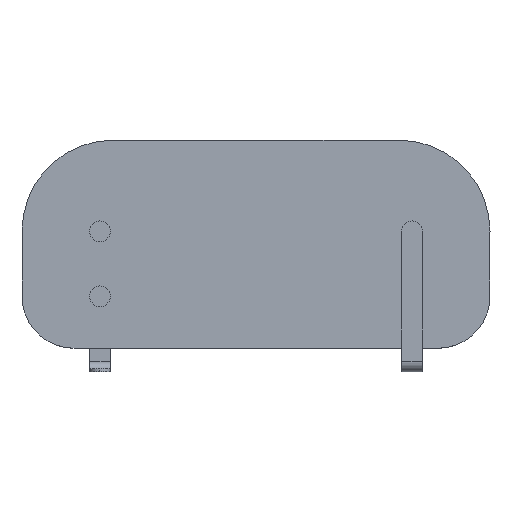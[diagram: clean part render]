
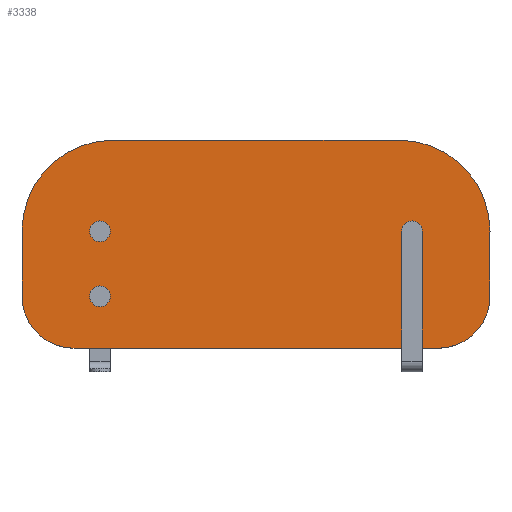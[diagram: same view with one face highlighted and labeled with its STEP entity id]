
A CAD part, top view. The second image highlights one B-rep face of the part: STEP entity #3338.
In plain terms, the highlighted planar face has unit normal (0, 0, 1).
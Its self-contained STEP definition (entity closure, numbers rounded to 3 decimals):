
#58 = DIRECTION ( 'NONE',  ( 0., 0., 1. ) ) ;
#60 = EDGE_CURVE ( 'NONE', #4471, #3266, #4405, .T. ) ;
#78 = VERTEX_POINT ( 'NONE', #1738 ) ;
#84 = VERTEX_POINT ( 'NONE', #2086 ) ;
#128 = CARTESIAN_POINT ( 'NONE',  ( 51175.072, 54736.734, 18. ) ) ;
#241 = DIRECTION ( 'NONE',  ( 0., 0., 1. ) ) ;
#300 = VERTEX_POINT ( 'NONE', #401 ) ;
#303 = EDGE_LOOP ( 'NONE', ( #1111, #576 ) ) ;
#369 = CARTESIAN_POINT ( 'NONE',  ( 0., 54336.734, 18. ) ) ;
#397 = AXIS2_PLACEMENT_3D ( 'NONE', #4201, #241, #4542 ) ;
#401 = CARTESIAN_POINT ( 'NONE',  ( 51760.822, 54561.734, 18. ) ) ;
#497 = DIRECTION ( 'NONE',  ( 0., 0., 1. ) ) ;
#501 = CARTESIAN_POINT ( 'NONE',  ( 51100.072, 54336.734, 18. ) ) ;
#576 = ORIENTED_EDGE ( 'NONE', *, *, #1133, .F. ) ;
#625 = AXIS2_PLACEMENT_3D ( 'NONE', #4019, #3188, #3601 ) ;
#674 = EDGE_CURVE ( 'NONE', #3266, #1403, #3734, .T. ) ;
#696 = DIRECTION ( 'NONE',  ( 1., 0., 0. ) ) ;
#737 = EDGE_LOOP ( 'NONE', ( #1863, #4769, #1262, #982, #4278, #2682, #960, #4523 ) ) ;
#802 = CARTESIAN_POINT ( 'NONE',  ( 51150.072, 54561.734, 18. ) ) ;
#813 = VECTOR ( 'NONE', #3688, 1000. ) ;
#861 = CARTESIAN_POINT ( 'NONE',  ( 51739.322, 54561.734, 18. ) ) ;
#879 = CIRCLE ( 'NONE', #3763, 10.75 ) ;
#921 = DIRECTION ( 'NONE',  ( 0., 0., 1. ) ) ;
#958 = AXIS2_PLACEMENT_3D ( 'NONE', #1945, #3515, #3214 ) ;
#960 = ORIENTED_EDGE ( 'NONE', *, *, #1012, .F. ) ;
#981 = EDGE_CURVE ( 'NONE', #1685, #1531, #1184, .T. ) ;
#982 = ORIENTED_EDGE ( 'NONE', *, *, #674, .T. ) ;
#1012 = EDGE_CURVE ( 'NONE', #4468, #84, #1975, .T. ) ;
#1077 = CARTESIAN_POINT ( 'NONE',  ( 51760.822, 54436.734, 18. ) ) ;
#1098 = DIRECTION ( 'NONE',  ( 1., 0., 0. ) ) ;
#1111 = ORIENTED_EDGE ( 'NONE', *, *, #2333, .F. ) ;
#1133 = EDGE_CURVE ( 'NONE', #3101, #3455, #3076, .T. ) ;
#1177 = CARTESIAN_POINT ( 'NONE',  ( 0., 0., 18. ) ) ;
#1184 = CIRCLE ( 'NONE', #3159, 10.75 ) ;
#1225 = FACE_BOUND ( 'NONE', #2136, .T. ) ;
#1262 = ORIENTED_EDGE ( 'NONE', *, *, #60, .T. ) ;
#1272 = FACE_BOUND ( 'NONE', #2836, .T. ) ;
#1319 = EDGE_CURVE ( 'NONE', #2831, #2576, #3467, .T. ) ;
#1378 = AXIS2_PLACEMENT_3D ( 'NONE', #1177, #3593, #2356 ) ;
#1403 = VERTEX_POINT ( 'NONE', #501 ) ;
#1500 = VERTEX_POINT ( 'NONE', #861 ) ;
#1526 = AXIS2_PLACEMENT_3D ( 'NONE', #2982, #3805, #696 ) ;
#1531 = VERTEX_POINT ( 'NONE', #3174 ) ;
#1549 = CIRCLE ( 'NONE', #4486, 10.75 ) ;
#1617 = DIRECTION ( 'NONE',  ( 0., 0., 1. ) ) ;
#1685 = VERTEX_POINT ( 'NONE', #4173 ) ;
#1738 = CARTESIAN_POINT ( 'NONE',  ( 51160.822, 54436.734, 18. ) ) ;
#1804 = EDGE_LOOP ( 'NONE', ( #2376, #2185 ) ) ;
#1863 = ORIENTED_EDGE ( 'NONE', *, *, #1319, .F. ) ;
#1903 = CARTESIAN_POINT ( 'NONE',  ( 51750.072, 54561.734, 18. ) ) ;
#1927 = CARTESIAN_POINT ( 'NONE',  ( 51800.072, 54336.734, 18. ) ) ;
#1945 = CARTESIAN_POINT ( 'NONE',  ( 51175.072, 54561.734, 18. ) ) ;
#1951 = FACE_OUTER_BOUND ( 'NONE', #737, .T. ) ;
#1975 = LINE ( 'NONE', #2776, #2660 ) ;
#1988 = DIRECTION ( 'NONE',  ( 1., 0., 0. ) ) ;
#2052 = CARTESIAN_POINT ( 'NONE',  ( 51900.072, 54561.734, 18. ) ) ;
#2054 = DIRECTION ( 'NONE',  ( 1., 0., 0. ) ) ;
#2086 = CARTESIAN_POINT ( 'NONE',  ( 51900.072, 54436.734, 18. ) ) ;
#2136 = EDGE_LOOP ( 'NONE', ( #3452, #4724 ) ) ;
#2170 = EDGE_CURVE ( 'NONE', #2831, #4471, #4644, .T. ) ;
#2175 = CIRCLE ( 'NONE', #625, 100. ) ;
#2185 = ORIENTED_EDGE ( 'NONE', *, *, #2272, .F. ) ;
#2193 = CIRCLE ( 'NONE', #2693, 175. ) ;
#2204 = EDGE_CURVE ( 'NONE', #1500, #300, #4328, .T. ) ;
#2258 = DIRECTION ( 'NONE',  ( 0., 0., 1. ) ) ;
#2272 = EDGE_CURVE ( 'NONE', #78, #2996, #4794, .T. ) ;
#2333 = EDGE_CURVE ( 'NONE', #3455, #3101, #3340, .T. ) ;
#2356 = DIRECTION ( 'NONE',  ( 1., 0., 0. ) ) ;
#2359 = DIRECTION ( 'NONE',  ( 1., 0., 0. ) ) ;
#2376 = ORIENTED_EDGE ( 'NONE', *, *, #5010, .F. ) ;
#2433 = DIRECTION ( 'NONE',  ( 1., 0., 0. ) ) ;
#2514 = AXIS2_PLACEMENT_3D ( 'NONE', #4889, #497, #2054 ) ;
#2545 = EDGE_CURVE ( 'NONE', #1403, #3100, #4691, .T. ) ;
#2576 = VERTEX_POINT ( 'NONE', #3140 ) ;
#2592 = AXIS2_PLACEMENT_3D ( 'NONE', #3730, #3021, #2907 ) ;
#2660 = VECTOR ( 'NONE', #3115, 1000. ) ;
#2682 = ORIENTED_EDGE ( 'NONE', *, *, #4918, .T. ) ;
#2693 = AXIS2_PLACEMENT_3D ( 'NONE', #3724, #921, #2433 ) ;
#2720 = DIRECTION ( 'NONE',  ( 1., 0., 0. ) ) ;
#2775 = FACE_BOUND ( 'NONE', #303, .T. ) ;
#2776 = CARTESIAN_POINT ( 'NONE',  ( 51900.072, 0., 18. ) ) ;
#2831 = VERTEX_POINT ( 'NONE', #128 ) ;
#2836 = EDGE_LOOP ( 'NONE', ( #3658, #3771 ) ) ;
#2880 = CARTESIAN_POINT ( 'NONE',  ( 51000.072, 54561.734, 18. ) ) ;
#2907 = DIRECTION ( 'NONE',  ( 1., 0., 0. ) ) ;
#2970 = EDGE_CURVE ( 'NONE', #1531, #1685, #879, .T. ) ;
#2982 = CARTESIAN_POINT ( 'NONE',  ( 51100.072, 54436.734, 18. ) ) ;
#2984 = DIRECTION ( 'NONE',  ( 1., 0., 0. ) ) ;
#2996 = VERTEX_POINT ( 'NONE', #3673 ) ;
#3021 = DIRECTION ( 'NONE',  ( 0., 0., 1. ) ) ;
#3031 = EDGE_CURVE ( 'NONE', #4468, #2576, #2193, .T. ) ;
#3064 = EDGE_CURVE ( 'NONE', #300, #1500, #1549, .T. ) ;
#3076 = CIRCLE ( 'NONE', #3982, 10.75 ) ;
#3083 = CARTESIAN_POINT ( 'NONE',  ( 0., 54736.734, 18. ) ) ;
#3100 = VERTEX_POINT ( 'NONE', #1927 ) ;
#3101 = VERTEX_POINT ( 'NONE', #1077 ) ;
#3103 = AXIS2_PLACEMENT_3D ( 'NONE', #3585, #58, #1988 ) ;
#3115 = DIRECTION ( 'NONE',  ( 0., -1., 0. ) ) ;
#3140 = CARTESIAN_POINT ( 'NONE',  ( 51725.072, 54736.734, 18. ) ) ;
#3158 = FACE_BOUND ( 'NONE', #1804, .T. ) ;
#3159 = AXIS2_PLACEMENT_3D ( 'NONE', #802, #1617, #2359 ) ;
#3174 = CARTESIAN_POINT ( 'NONE',  ( 51139.322, 54561.734, 18. ) ) ;
#3188 = DIRECTION ( 'NONE',  ( 0., 0., 1. ) ) ;
#3214 = DIRECTION ( 'NONE',  ( 1., 0., 0. ) ) ;
#3254 = CARTESIAN_POINT ( 'NONE',  ( 51150.072, 54561.734, 18. ) ) ;
#3266 = VERTEX_POINT ( 'NONE', #4336 ) ;
#3338 = ADVANCED_FACE ( 'NONE', ( #3158, #2775, #1272, #1225, #1951 ), #4684, .T. ) ;
#3340 = CIRCLE ( 'NONE', #2514, 10.75 ) ;
#3383 = DIRECTION ( 'NONE',  ( 0., 0., 1. ) ) ;
#3449 = DIRECTION ( 'NONE',  ( 1., 0., 0. ) ) ;
#3452 = ORIENTED_EDGE ( 'NONE', *, *, #2970, .F. ) ;
#3455 = VERTEX_POINT ( 'NONE', #3747 ) ;
#3467 = LINE ( 'NONE', #3083, #4621 ) ;
#3515 = DIRECTION ( 'NONE',  ( 0., 0., 1. ) ) ;
#3585 = CARTESIAN_POINT ( 'NONE',  ( 51750.072, 54561.734, 18. ) ) ;
#3593 = DIRECTION ( 'NONE',  ( 0., 0., 1. ) ) ;
#3601 = DIRECTION ( 'NONE',  ( 1., 0., 0. ) ) ;
#3658 = ORIENTED_EDGE ( 'NONE', *, *, #2204, .F. ) ;
#3664 = CARTESIAN_POINT ( 'NONE',  ( 51000.072, 0., 18. ) ) ;
#3673 = CARTESIAN_POINT ( 'NONE',  ( 51139.322, 54436.734, 18. ) ) ;
#3688 = DIRECTION ( 'NONE',  ( 0., -1., 0. ) ) ;
#3724 = CARTESIAN_POINT ( 'NONE',  ( 51725.072, 54561.734, 18. ) ) ;
#3730 = CARTESIAN_POINT ( 'NONE',  ( 51150.072, 54436.734, 18. ) ) ;
#3734 = CIRCLE ( 'NONE', #1526, 100. ) ;
#3747 = CARTESIAN_POINT ( 'NONE',  ( 51739.322, 54436.734, 18. ) ) ;
#3763 = AXIS2_PLACEMENT_3D ( 'NONE', #3254, #4827, #4435 ) ;
#3771 = ORIENTED_EDGE ( 'NONE', *, *, #3064, .F. ) ;
#3805 = DIRECTION ( 'NONE',  ( 0., 0., 1. ) ) ;
#3982 = AXIS2_PLACEMENT_3D ( 'NONE', #4877, #3383, #2984 ) ;
#4019 = CARTESIAN_POINT ( 'NONE',  ( 51800.072, 54436.734, 18. ) ) ;
#4173 = CARTESIAN_POINT ( 'NONE',  ( 51160.822, 54561.734, 18. ) ) ;
#4201 = CARTESIAN_POINT ( 'NONE',  ( 51150.072, 54436.734, 18. ) ) ;
#4278 = ORIENTED_EDGE ( 'NONE', *, *, #2545, .T. ) ;
#4328 = CIRCLE ( 'NONE', #3103, 10.75 ) ;
#4336 = CARTESIAN_POINT ( 'NONE',  ( 51000.072, 54436.734, 18. ) ) ;
#4405 = LINE ( 'NONE', #3664, #813 ) ;
#4435 = DIRECTION ( 'NONE',  ( 1., 0., 0. ) ) ;
#4468 = VERTEX_POINT ( 'NONE', #2052 ) ;
#4471 = VERTEX_POINT ( 'NONE', #2880 ) ;
#4486 = AXIS2_PLACEMENT_3D ( 'NONE', #1903, #2258, #1098 ) ;
#4523 = ORIENTED_EDGE ( 'NONE', *, *, #3031, .T. ) ;
#4542 = DIRECTION ( 'NONE',  ( 1., 0., 0. ) ) ;
#4621 = VECTOR ( 'NONE', #2720, 1000. ) ;
#4644 = CIRCLE ( 'NONE', #958, 175. ) ;
#4684 = PLANE ( 'NONE',  #1378 ) ;
#4691 = LINE ( 'NONE', #369, #4876 ) ;
#4724 = ORIENTED_EDGE ( 'NONE', *, *, #981, .F. ) ;
#4769 = ORIENTED_EDGE ( 'NONE', *, *, #2170, .T. ) ;
#4782 = CIRCLE ( 'NONE', #2592, 10.75 ) ;
#4794 = CIRCLE ( 'NONE', #397, 10.75 ) ;
#4827 = DIRECTION ( 'NONE',  ( 0., 0., 1. ) ) ;
#4876 = VECTOR ( 'NONE', #3449, 1000. ) ;
#4877 = CARTESIAN_POINT ( 'NONE',  ( 51750.072, 54436.734, 18. ) ) ;
#4889 = CARTESIAN_POINT ( 'NONE',  ( 51750.072, 54436.734, 18. ) ) ;
#4918 = EDGE_CURVE ( 'NONE', #3100, #84, #2175, .T. ) ;
#5010 = EDGE_CURVE ( 'NONE', #2996, #78, #4782, .T. ) ;
